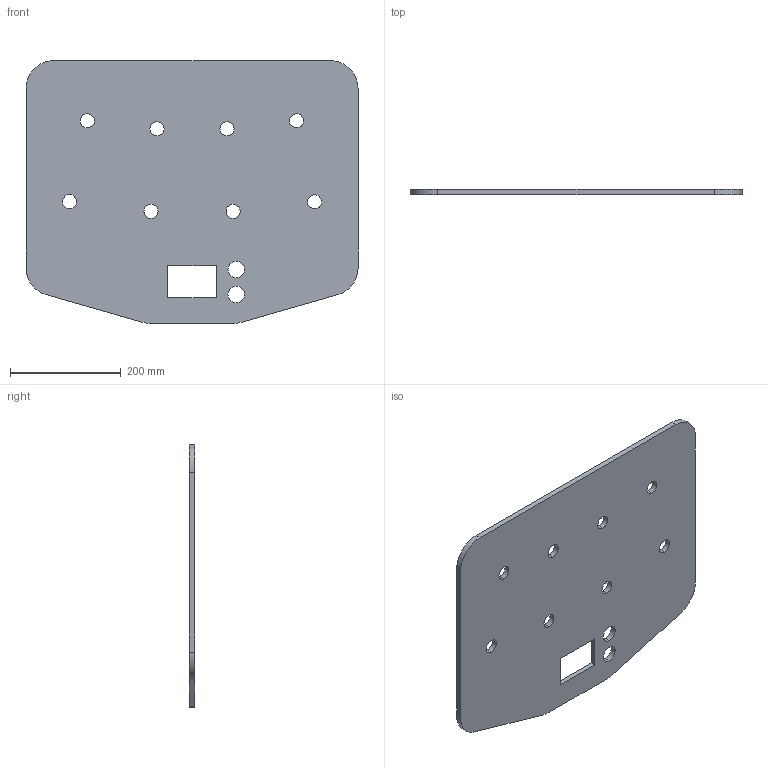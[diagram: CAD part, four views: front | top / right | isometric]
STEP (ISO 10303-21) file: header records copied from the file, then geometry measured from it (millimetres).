
FILE_DESCRIPTION (( 'STEP AP214' ), '1' );
FILE_NAME ('Board Top.STEP', '2018-05-10T20:42:01', ( '' ), ( '' ), 'SwSTEP 2.0', 'SolidWorks 2015', '' );
FILE_SCHEMA (( 'AUTOMOTIVE_DESIGN' ));
Length unit declared in the file: millimetre
Products named in the file (1): Board Top
Bounding box: 600 x 10 x 475 mm (x, y, z)
Volume: 2592589 mm3; surface area: 549493.2 mm2
Topology: 1 solids, 1 shells, 38 faces, 108 edges, 72 vertices
Faces by surface type: cylinder 26, plane 12
Entity records: 1342 total; most frequent: DIRECTION 238, CARTESIAN_POINT 219, ORIENTED_EDGE 216, EDGE_CURVE 108, AXIS2_PLACEMENT_3D 91, VERTEX_POINT 72, EDGE_LOOP 60, LINE 56
